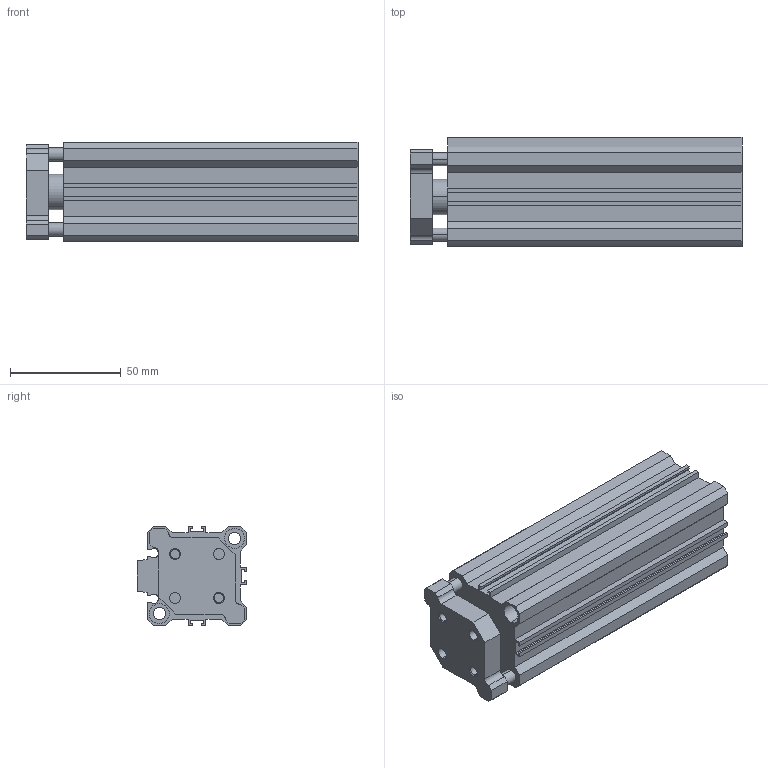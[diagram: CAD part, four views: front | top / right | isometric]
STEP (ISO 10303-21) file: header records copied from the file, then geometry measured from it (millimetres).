
FILE_DESCRIPTION (( 'STEP AP203' ), '1' );
FILE_NAME ('CCMG32-100.STEP', '2020-04-01T18:41:46', ( '' ), ( '' ), 'SwSTEP 2.0', 'SolidWorks 2019', '' );
FILE_SCHEMA (( 'CONFIG_CONTROL_DESIGN' ));
Length unit declared in the file: millimetre
Products named in the file (1): CCMG32-100
Bounding box: 150 x 49.5 x 45 mm (x, y, z)
Volume: 190681.7 mm3; surface area: 76934.2 mm2
Topology: 2 solids, 2 shells, 165 faces, 431 edges, 280 vertices
Faces by surface type: plane 92, cylinder 57, cone 16
Entity records: 5134 total; most frequent: DIRECTION 885, CARTESIAN_POINT 873, ORIENTED_EDGE 854, EDGE_CURVE 427, LINE 301, VECTOR 301, AXIS2_PLACEMENT_3D 292, VERTEX_POINT 280
